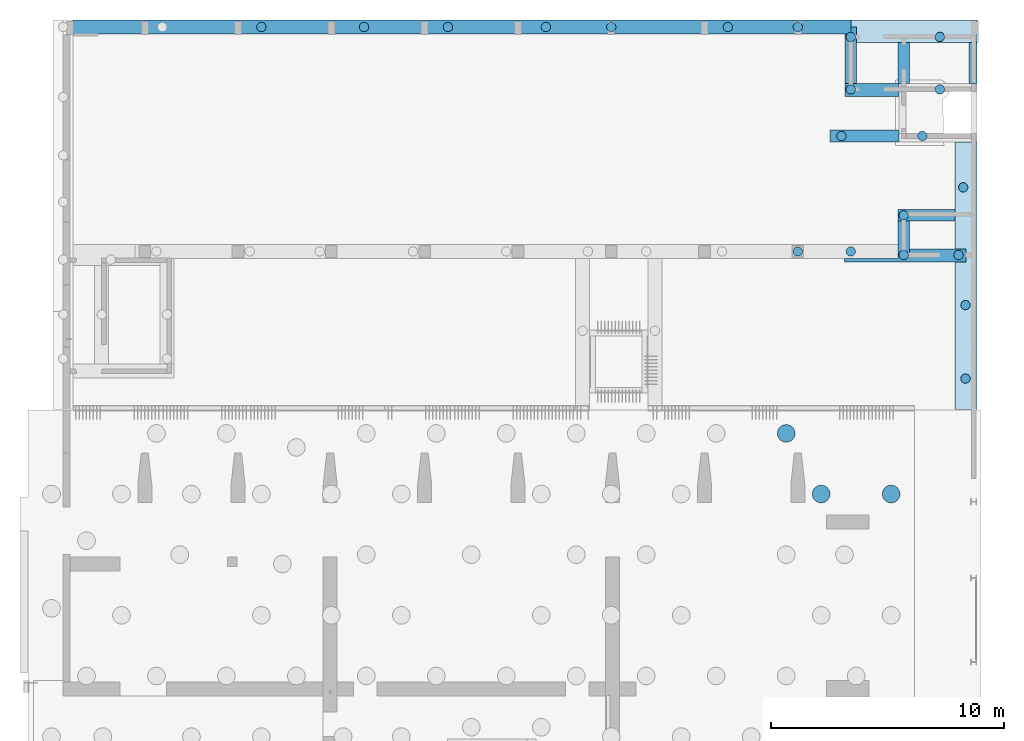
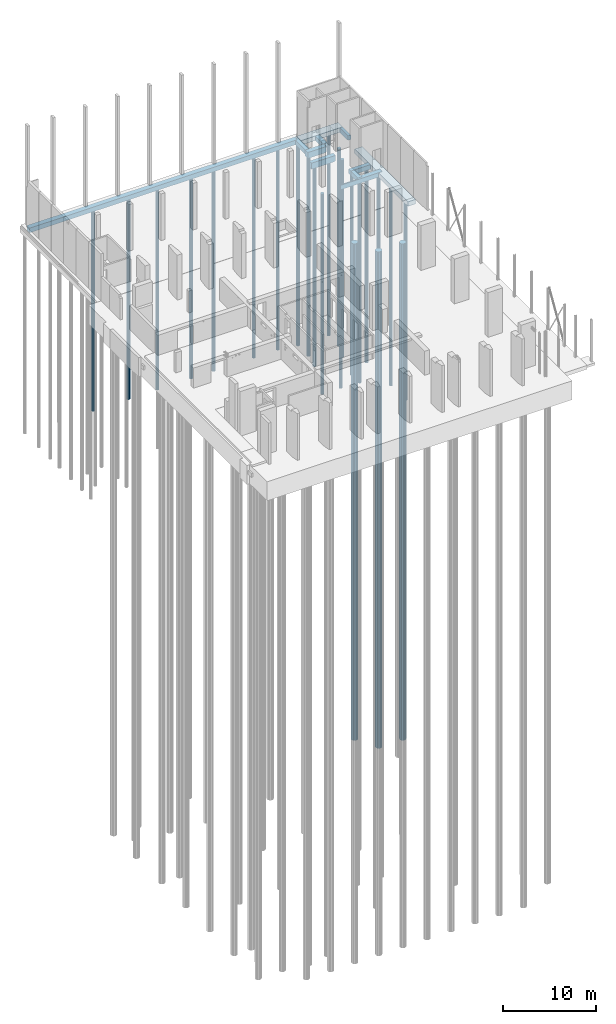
# One storey, part 8 of 26: 24 piles, 11 footings.
"""IFC2X3 building model written with IfcOpenShell, lengths in millimetres."""

from ifc_helpers import new_model, entity, si_unit, converted_unit, derived_unit, direction, frame, frame_2d, origin, origin_2d_with_axis, place, context, subcontext, project, spatial, polyline, rectangle, outline, extrude, material, element, save


model = new_model("IFC2X3")

# Units and contexts
model_context = context("Model", 3, precision=0.01, world=origin(), true_north=direction((6.12303176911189e-17, 1.0)))
body_context = subcontext(model_context, "Body", "Model", "MODEL_VIEW")
ifc_project = project(units=[si_unit("LENGTHUNIT", "METRE", prefix="MILLI"), si_unit("AREAUNIT", "SQUARE_METRE"), si_unit("VOLUMEUNIT", "CUBIC_METRE"), converted_unit("PLANEANGLEUNIT", "DEGREE", entity("IfcRatioMeasure", 0.0174532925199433), si_unit("PLANEANGLEUNIT", "RADIAN"), dimensions=[0, 0, 0, 0, 0, 0, 0]), si_unit("MASSUNIT", "GRAM", prefix="KILO"), derived_unit("MASSDENSITYUNIT", [(si_unit("MASSUNIT", "GRAM", prefix="KILO"), 1), (si_unit("LENGTHUNIT", "METRE"), -3)]), si_unit("TIMEUNIT", "SECOND"), si_unit("FREQUENCYUNIT", "HERTZ"), si_unit("THERMODYNAMICTEMPERATUREUNIT", "DEGREE_CELSIUS"), derived_unit("THERMALTRANSMITTANCEUNIT", [(si_unit("MASSUNIT", "GRAM", prefix="KILO"), 1), (si_unit("THERMODYNAMICTEMPERATUREUNIT", "KELVIN"), -1), (si_unit("TIMEUNIT", "SECOND"), -3)]), derived_unit("VOLUMETRICFLOWRATEUNIT", [(si_unit("LENGTHUNIT", "METRE"), 3), (si_unit("TIMEUNIT", "SECOND"), -1)]), si_unit("ELECTRICCURRENTUNIT", "AMPERE"), si_unit("ELECTRICVOLTAGEUNIT", "VOLT"), si_unit("POWERUNIT", "WATT"), si_unit("FORCEUNIT", "NEWTON", prefix="KILO"), si_unit("ILLUMINANCEUNIT", "LUX"), si_unit("LUMINOUSFLUXUNIT", "LUMEN"), si_unit("LUMINOUSINTENSITYUNIT", "CANDELA"), derived_unit("USERDEFINED", [(si_unit("MASSUNIT", "GRAM", prefix="KILO"), -1), (si_unit("LENGTHUNIT", "METRE"), -2), (si_unit("TIMEUNIT", "SECOND"), 3), (si_unit("LUMINOUSFLUXUNIT", "LUMEN"), 1)]), derived_unit("LINEARVELOCITYUNIT", [(si_unit("LENGTHUNIT", "METRE"), 1), (si_unit("TIMEUNIT", "SECOND"), -1)]), si_unit("PRESSUREUNIT", "PASCAL"), derived_unit("USERDEFINED", [(si_unit("LENGTHUNIT", "METRE"), -2), (si_unit("MASSUNIT", "GRAM", prefix="KILO"), 1), (si_unit("TIMEUNIT", "SECOND"), -2)])], contexts=[model_context])

# Site, building, storey
site_placement = place(None, origin())
site = spatial("IfcSite", under=ifc_project, at=site_placement, Name="Default", CompositionType="ELEMENT")
building_placement = place(site_placement, origin())
building = spatial("IfcBuilding", under=site, at=building_placement, Name="niet gebruiken", CompositionType="ELEMENT")
storey_placement = place(building_placement, origin())
storey = spatial("IfcBuildingStorey", under=building, at=storey_placement, Name="00 begane grond", CompositionType="ELEMENT", Elevation=0.0)

# Footings
ifc_material = material(Name="NLRS_f2_beton ihwg")
footing_1_placement = place(storey_placement, origin())
element("IfcFooting", 1, at=footing_1_placement, inside=storey, material=ifc_material, Name="NLRS_16.12_SF_WPB_funderingsbalk ihwg recht_gen:600x600", ObjectType="NLRS_16.12_SF_WPB_funderingsbalk ihwg recht_gen:600x600", PredefinedType="FOOTING_BEAM", context=body_context, shape_type="SweptSolid", body=[
    extrude(rectangle(XDim=33345.0, YDim=599.999999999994, at=frame_2d((-5515.83333333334, 50.0000000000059), x_axis=(1.0, 0.0))), frame((146863.333333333, 53075.0, -1200.0)), (0.0, 0.0, 1.0), 599.999999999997),
])
footing_2_placement = place(storey_placement, origin())
element("IfcFooting", 2, at=footing_2_placement, inside=storey, material=ifc_material, Name="NLRS_16.12_SF_WPB_funderingsbalk ihwg recht_gen:500x600", ObjectType="NLRS_16.12_SF_WPB_funderingsbalk ihwg recht_gen:500x600", PredefinedType="FOOTING_BEAM", context=body_context, shape_type="SweptSolid", body=[
    extrude(rectangle(XDim=1500.0, YDim=500.000000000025, at=frame_2d((-116.666666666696, 0.0), x_axis=(1.0, 0.0))), frame((160290.0, 43933.3333333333, -1200.0), z_axis=(0.0, 0.0, 1.0), x_axis=(0.0, -1.0, 0.0)), (0.0, 0.0, 1.0), 599.999999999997),
])
footing_3_placement = place(storey_placement, origin())
element("IfcFooting", 3, at=footing_3_placement, inside=storey, material=ifc_material, Name="NLRS_16.12_SF_WPB_funderingsbalk ihwg recht_gen:550x600", ObjectType="NLRS_16.12_SF_WPB_funderingsbalk ihwg recht_gen:550x600", PredefinedType="FOOTING_BEAM", context=body_context, shape_type="SweptSolid", body=[
    extrude(outline(polyline([(-2208.0, -305.0), (-1733.0, -305.0), (217.0, -305.0), (217.0, -5.0), (717.0, -5.0), (717.0, 95.0), (3007.0, 95.0), (3007.0, 245.0), (-1733.0, 245.0), (-2208.0, 245.0), (-2208.0, -305.0)])), frame((160757.0, 43295.0, -1200.0), z_axis=(0.0, 0.0, 1.0), x_axis=(-1.0, 0.0, 0.0)), (0.0, 0.0, 1.0), 599.999999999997),
])
footing_4_placement = place(storey_placement, origin())
element("IfcFooting", 4, at=footing_4_placement, inside=storey, material=ifc_material, Name="NLRS_16.12_SF_WPB_funderingsbalk ihwg recht_gen:350x600", ObjectType="NLRS_16.12_SF_WPB_funderingsbalk ihwg recht_gen:350x600", PredefinedType="FOOTING_BEAM", context=body_context, shape_type="SweptSolid", body=[
    extrude(rectangle(XDim=1749.9999999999, YDim=349.99999999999, at=frame_2d((0.0, 1.73372427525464e-11), x_axis=(1.0, 0.0))), frame((163265.0, 51575.0, -1200.0), z_axis=(0.0, 0.0, 1.0), x_axis=(0.0, -1.0, 0.0)), (0.0, 0.0, 1.0), 599.999999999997),
])
footing_5_placement = place(storey_placement, origin())
element("IfcFooting", 5, at=footing_5_placement, inside=storey, material=ifc_material, Name="NLRS_16.12_SF_WPB_funderingsbalk ihwg recht_gen:500x600", ObjectType="NLRS_16.12_SF_WPB_funderingsbalk ihwg recht_gen:500x600", PredefinedType="FOOTING_BEAM", context=body_context, shape_type="SweptSolid", body=[
    extrude(rectangle(XDim=2450.00000000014, YDim=499.999999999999, at=frame_2d((-144.999999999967, -49.9999999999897), x_axis=(1.0, 0.0))), frame((161120.0, 45000.0, -1200.0), z_axis=(0.0, 0.0, 1.0), x_axis=(-1.0, 0.0, 0.0)), (0.0, 0.0, 1.0), 599.999999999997),
])
footing_6_placement = place(storey_placement, origin())
element("IfcFooting", 6, at=footing_6_placement, inside=storey, material=ifc_material, Name="NLRS_16.12_SF_WPB_funderingsbalk ihwg recht_gen:975x600", ObjectType="NLRS_16.12_SF_WPB_funderingsbalk ihwg recht_gen:975x600", PredefinedType="FOOTING_BEAM", context=body_context, shape_type="SweptSolid", body=[
    extrude(outline(polyline([(-3092.22222222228, -608.333333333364), (2327.77777777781, -608.333333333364), (2327.7777777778, -308.333333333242), (2077.77777777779, -308.333333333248), (2077.77777777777, 366.666666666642), (307.777777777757, 366.666666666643), (-192.222222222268, 366.666666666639), (-2742.22222222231, 366.666666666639), (-3092.2222222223, 366.66666666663), (-3092.22222222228, -608.333333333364)])), frame((160347.777777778, 52816.6666666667, -1200.0), z_axis=(0.0, 0.0, 1.0), x_axis=(-1.0, 0.0, 0.0)), (0.0, 0.0, 1.0), 599.999999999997),
])
footing_7_placement = place(storey_placement, origin())
element("IfcFooting", 7, at=footing_7_placement, inside=storey, material=ifc_material, Name="NLRS_16.12_SF_WPB_funderingsbalk ihwg recht_gen:550x750", ObjectType="NLRS_16.12_SF_WPB_funderingsbalk ihwg recht_gen:550x750", PredefinedType="FOOTING_BEAM", context=body_context, shape_type="SweptSolid", body=[
    extrude(outline(polyline([(-1496.66666666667, -516.666666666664), (823.333333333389, -516.666666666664), (823.333333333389, 233.333333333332), (673.333333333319, 233.333333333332), (673.333333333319, 283.333333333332), (-1496.66666666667, 283.333333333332), (-1496.66666666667, -516.666666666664)])), frame((159266.666666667, 50150.0, -1116.66666666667), z_axis=(0.0, 1.0, 0.0), x_axis=(1.0, 0.0, 0.0)), (0.0, 0.0, 1.0), 549.999999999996),
])
footing_8_placement = place(storey_placement, origin())
element("IfcFooting", 8, at=footing_8_placement, inside=storey, material=ifc_material, Name="NLRS_16.12_SF_WPB_funderingsbalk ihwg recht_gen:500x600", ObjectType="NLRS_16.12_SF_WPB_funderingsbalk ihwg recht_gen:500x600", PredefinedType="FOOTING_BEAM", context=body_context, shape_type="SweptSolid", body=[
    extrude(outline(polyline([(-1550.0, -214.285714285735), (200.0, -214.285714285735), (875.0, -214.285714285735), (875.0, 35.7142857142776), (575.0, 35.7142857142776), (575.0, 285.71428571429), (-1550.0, 285.71428571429), (-1550.0, -214.285714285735)])), frame((158055.714285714, 52250.0, -1200.0), z_axis=(0.0, 0.0, 1.0), x_axis=(0.0, 1.0, 0.0)), (0.0, 0.0, 1.0), 599.999999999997),
])
footing_9_placement = place(storey_placement, origin())
element("IfcFooting", 9, at=footing_9_placement, inside=storey, material=ifc_material, Name="NLRS_16.12_SF_WPB_funderingsbalk ihwg recht_gen:500x600", ObjectType="NLRS_16.12_SF_WPB_funderingsbalk ihwg recht_gen:500x600", PredefinedType="FOOTING_BEAM", context=body_context, shape_type="SweptSolid", body=[
    extrude(rectangle(XDim=1750.00000000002, YDim=499.99999999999, at=origin_2d_with_axis()), frame((160290.0, 51575.0, -1200.0), z_axis=(0.0, 0.0, 1.0), x_axis=(0.0, 1.0, 0.0)), (0.0, 0.0, 1.0), 599.999999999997),
])

# Piles
pile_1_placement = place(storey_placement, origin())
element("IfcPile", 10, at=pile_1_placement, inside=storey, material=ifc_material, Name="NLRS_17.12_SFO_TLB_funderingspaal grondverdringend_gen:Tubex_r762/950", ObjectType="NLRS_17.12_SFO_TLB_funderingspaal grondverdringend_gen:Tubex_r762/950", context=body_context, shape_type="SweptSolid", body=[
    extrude(outline(polyline([(-33.2063379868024, -379.550179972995), (33.2063379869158, -379.550179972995), (161.017557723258, -345.303266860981), (269.407683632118, -269.407683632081), (345.303266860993, -161.017557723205), (379.550179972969, -33.2063379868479), (368.017739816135, 98.6100561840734), (312.096928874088, 218.532622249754), (218.532622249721, 312.096928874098), (98.6100561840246, 368.017739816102), (33.2063379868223, 379.550179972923), (-33.2063379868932, 379.550179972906), (-161.017557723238, 345.30326686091), (-269.407683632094, 269.40768363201), (-345.303266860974, 161.017557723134), (-379.550179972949, 33.2063379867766), (-368.017739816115, -98.6100561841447), (-312.096928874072, -218.532622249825), (-218.532622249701, -312.096928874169), (-98.6100561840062, -368.01773981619), (-33.2063379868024, -379.550179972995)])), frame((155250.0, 35700.0, -68100.0), z_axis=(0.0, 0.0, 1.0), x_axis=(0.087155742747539, -0.996194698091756, 0.0)), (0.0, 0.0, 1.0), 65380.0),
])
pile_2_placement = place(storey_placement, origin())
element("IfcPile", 11, at=pile_2_placement, inside=storey, material=ifc_material, Name="NLRS_17.12_SFO_TLB_funderingspaal grondverdringend_gen:Tubex_r762/950", ObjectType="NLRS_17.12_SFO_TLB_funderingspaal grondverdringend_gen:Tubex_r762/950", context=body_context, shape_type="SweptSolid", body=[
    extrude(outline(polyline([(-33.2063379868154, -379.550179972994), (33.2063379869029, -379.550179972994), (161.017557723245, -345.30326686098), (269.407683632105, -269.40768363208), (345.303266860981, -161.017557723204), (379.550179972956, -33.2063379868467), (368.017739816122, 98.6100561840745), (312.096928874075, 218.532622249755), (218.532622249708, 312.096928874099), (98.6100561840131, 368.01773981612), (33.2063379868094, 379.550179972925), (-33.2063379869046, 379.550179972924), (-161.017557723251, 345.303266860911), (-269.407683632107, 269.407683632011), (-345.303266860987, 161.017557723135), (-379.550179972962, 33.2063379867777), (-368.017739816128, -98.6100561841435), (-312.096928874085, -218.532622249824), (-218.532622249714, -312.096928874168), (-98.6100561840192, -368.017739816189), (-33.2063379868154, -379.550179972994)])), frame((159750.0, 33100.0, -68100.0), z_axis=(0.0, 0.0, 1.0), x_axis=(0.087155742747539, -0.996194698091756, 0.0)), (0.0, 0.0, 1.0), 65380.0),
])
pile_3_placement = place(storey_placement, origin())
element("IfcPile", 12, at=pile_3_placement, inside=storey, material=ifc_material, Name="NLRS_17.12_SFO_TLB_funderingspaal grondverdringend_gen:Tubex_r762/950", ObjectType="NLRS_17.12_SFO_TLB_funderingspaal grondverdringend_gen:Tubex_r762/950", context=body_context, shape_type="SweptSolid", body=[
    extrude(outline(polyline([(-33.2063379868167, -379.550179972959), (33.2063379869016, -379.550179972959), (161.017557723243, -345.303266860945), (269.407683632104, -269.407683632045), (345.303266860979, -161.017557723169), (379.550179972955, -33.2063379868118), (368.01773981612, 98.6100561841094), (312.096928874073, 218.53262224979), (218.532622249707, 312.096928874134), (98.6100561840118, 368.017739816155), (33.2063379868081, 379.550179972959), (-33.2063379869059, 379.550179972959), (-161.017557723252, 345.303266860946), (-269.407683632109, 269.407683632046), (-345.303266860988, 161.01755772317), (-379.550179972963, 33.2063379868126), (-368.017739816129, -98.6100561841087), (-312.096928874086, -218.532622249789), (-218.532622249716, -312.096928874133), (-98.6100561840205, -368.017739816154), (-33.2063379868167, -379.550179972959)])), frame((156750.0, 33100.0, -68100.0), z_axis=(0.0, 0.0, 1.0), x_axis=(0.087155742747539, -0.996194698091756, 0.0)), (0.0, 0.0, 1.0), 65380.0),
])
pile_4_placement = place(storey_placement, origin())
element("IfcPile", 13, at=pile_4_placement, inside=storey, material=ifc_material, Name="NLRS_17.12_SFO_TLB_funderingspaal grondverdringend_gen:Fundex_r410/500", ObjectType="NLRS_17.12_SFO_TLB_funderingspaal grondverdringend_gen:Fundex_r410/500", context=body_context, shape_type="SweptSolid", body=[
    extrude(outline(polyline([(-49.0597111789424, -199.043072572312), (49.0597111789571, -199.043072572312), (135.940144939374, -153.444703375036), (191.678329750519, -72.6940018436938), (203.505319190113, 24.7100194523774), (168.711692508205, 116.453273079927), (95.2682502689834, 181.518485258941), (49.059711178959, 199.04307257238), (-49.0597111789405, 199.04307257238), (-135.940144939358, 153.444703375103), (-191.678329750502, 72.6940018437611), (-203.505319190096, -24.7100194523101), (-168.711692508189, -116.45327307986), (-95.2682502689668, -181.518485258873), (-49.0597111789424, -199.043072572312)])), frame((155750.0, 53125.0, -27600.0), z_axis=(0.0, 0.0, 1.0), x_axis=(0.239315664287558, -0.970941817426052, 0.0)), (0.0, 0.0, 1.0), 26420.0),
])
pile_5_placement = place(storey_placement, origin())
element("IfcPile", 14, at=pile_5_placement, inside=storey, material=ifc_material, Name="NLRS_17.12_SFO_TLB_funderingspaal grondverdringend_gen:Fundex_r410/500", ObjectType="NLRS_17.12_SFO_TLB_funderingspaal grondverdringend_gen:Fundex_r410/500", context=body_context, shape_type="SweptSolid", body=[
    extrude(outline(polyline([(-49.0597111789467, -199.043072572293), (49.0597111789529, -199.043072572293), (135.94014493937, -153.444703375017), (191.678329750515, -72.6940018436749), (203.505319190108, 24.7100194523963), (168.711692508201, 116.453273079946), (95.2682502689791, 181.51848525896), (49.0597111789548, 199.043072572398), (-49.0597111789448, 199.043072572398), (-135.940144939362, 153.444703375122), (-191.678329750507, 72.69400184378), (-203.5053191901, -24.7100194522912), (-168.711692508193, -116.453273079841), (-95.2682502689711, -181.518485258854), (-49.0597111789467, -199.043072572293)])), frame((152750.0, 53125.0, -27600.0), z_axis=(0.0, 0.0, 1.0), x_axis=(0.239315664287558, -0.970941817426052, 0.0)), (0.0, 0.0, 1.0), 26420.0),
])
pile_6_placement = place(storey_placement, origin())
element("IfcPile", 15, at=pile_6_placement, inside=storey, material=ifc_material, Name="NLRS_17.12_SFO_TLB_funderingspaal grondverdringend_gen:Fundex_r410/500", ObjectType="NLRS_17.12_SFO_TLB_funderingspaal grondverdringend_gen:Fundex_r410/500", context=body_context, shape_type="SweptSolid", body=[
    extrude(outline(polyline([(-49.0597111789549, -199.043072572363), (49.0597111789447, -199.043072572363), (135.940144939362, -153.444703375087), (191.678329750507, -72.6940018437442), (203.5053191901, 24.7100194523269), (168.711692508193, 116.453273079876), (95.2682502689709, 181.51848525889), (49.0597111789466, 199.043072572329), (-49.059711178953, 199.043072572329), (-135.94014493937, 153.444703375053), (-191.678329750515, 72.6940018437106), (-203.505319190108, -24.7100194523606), (-168.711692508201, -116.45327307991), (-95.2682502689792, -181.518485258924), (-49.0597111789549, -199.043072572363)])), frame((147750.0, 53125.0, -27600.0), z_axis=(0.0, 0.0, 1.0), x_axis=(0.239315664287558, -0.970941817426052, 0.0)), (0.0, 0.0, 1.0), 26420.0),
])
pile_7_placement = place(storey_placement, origin())
element("IfcPile", 16, at=pile_7_placement, inside=storey, material=ifc_material, Name="NLRS_17.12_SFO_TLB_funderingspaal grondverdringend_gen:Fundex_r410/500", ObjectType="NLRS_17.12_SFO_TLB_funderingspaal grondverdringend_gen:Fundex_r410/500", context=body_context, shape_type="SweptSolid", body=[
    extrude(outline(polyline([(-49.0597111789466, -199.043072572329), (49.059711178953, -199.043072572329), (135.94014493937, -153.444703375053), (191.678329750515, -72.6940018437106), (203.505319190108, 24.7100194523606), (168.711692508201, 116.45327307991), (95.2682502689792, 181.518485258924), (49.0597111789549, 199.043072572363), (-49.0597111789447, 199.043072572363), (-135.940144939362, 153.444703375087), (-191.678329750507, 72.6940018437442), (-203.5053191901, -24.7100194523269), (-168.711692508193, -116.453273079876), (-95.2682502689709, -181.51848525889), (-49.0597111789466, -199.043072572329)])), frame((144950.0, 53125.0, -27600.0), z_axis=(0.0, 0.0, 1.0), x_axis=(0.239315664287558, -0.970941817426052, 0.0)), (0.0, 0.0, 1.0), 26420.0),
])
pile_8_placement = place(storey_placement, origin())
element("IfcPile", 17, at=pile_8_placement, inside=storey, material=ifc_material, Name="NLRS_17.12_SFO_TLB_funderingspaal grondverdringend_gen:Fundex_r410/500", ObjectType="NLRS_17.12_SFO_TLB_funderingspaal grondverdringend_gen:Fundex_r410/500", context=body_context, shape_type="SweptSolid", body=[
    extrude(outline(polyline([(-49.0597111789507, -199.043072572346), (49.0597111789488, -199.043072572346), (135.940144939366, -153.44470337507), (191.678329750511, -72.6940018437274), (203.505319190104, 24.7100194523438), (168.711692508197, 116.453273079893), (95.2682502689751, 181.518485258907), (49.0597111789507, 199.043072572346), (-49.0597111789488, 199.043072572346), (-135.940144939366, 153.44470337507), (-191.678329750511, 72.6940018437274), (-203.505319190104, -24.7100194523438), (-168.711692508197, -116.453273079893), (-95.2682502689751, -181.518485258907), (-49.0597111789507, -199.043072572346)])), frame((140750.0, 53125.0, -27600.0), z_axis=(0.0, 0.0, 1.0), x_axis=(0.239315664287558, -0.970941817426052, 0.0)), (0.0, 0.0, 1.0), 26420.0),
])
pile_9_placement = place(storey_placement, origin())
element("IfcPile", 18, at=pile_9_placement, inside=storey, material=ifc_material, Name="NLRS_17.12_SFO_TLB_funderingspaal grondverdringend_gen:Fundex_r410/500", ObjectType="NLRS_17.12_SFO_TLB_funderingspaal grondverdringend_gen:Fundex_r410/500", context=body_context, shape_type="SweptSolid", body=[
    extrude(outline(polyline([(-49.059711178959, -199.04307257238), (49.0597111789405, -199.04307257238), (135.940144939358, -153.444703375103), (191.678329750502, -72.6940018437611), (203.505319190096, 24.7100194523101), (168.711692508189, 116.45327307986), (95.2682502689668, 181.518485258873), (49.0597111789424, 199.043072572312), (-49.0597111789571, 199.043072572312), (-135.940144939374, 153.444703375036), (-191.678329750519, 72.6940018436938), (-203.505319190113, -24.7100194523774), (-168.711692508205, -116.453273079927), (-95.2682502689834, -181.518485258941), (-49.059711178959, -199.04307257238)])), frame((137150.0, 53125.0, -27600.0), z_axis=(0.0, 0.0, 1.0), x_axis=(0.239315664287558, -0.970941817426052, 0.0)), (0.0, 0.0, 1.0), 26420.0),
])
pile_10_placement = place(storey_placement, origin())
element("IfcPile", 19, at=pile_10_placement, inside=storey, material=ifc_material, Name="NLRS_17.12_SFO_TLB_funderingspaal grondverdringend_gen:Fundex_r410/500", ObjectType="NLRS_17.12_SFO_TLB_funderingspaal grondverdringend_gen:Fundex_r410/500", context=body_context, shape_type="SweptSolid", body=[
    extrude(outline(polyline([(-49.059711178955, -199.043072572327), (49.0597111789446, -199.043072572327), (135.940144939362, -153.444703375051), (191.678329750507, -72.6940018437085), (203.5053191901, 24.7100194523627), (168.711692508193, 116.453273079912), (95.2682502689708, 181.518485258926), (49.0597111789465, 199.043072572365), (-49.0597111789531, 199.043072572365), (-135.94014493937, 153.444703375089), (-191.678329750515, 72.6940018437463), (-203.505319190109, -24.7100194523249), (-168.711692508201, -116.453273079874), (-95.2682502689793, -181.518485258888), (-49.059711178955, -199.043072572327)])), frame((132750.0, 53125.0, -27600.0), z_axis=(0.0, 0.0, 1.0), x_axis=(0.239315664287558, -0.970941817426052, 0.0)), (0.0, 0.0, 1.0), 26420.0),
])
pile_11_placement = place(storey_placement, origin())
element("IfcPile", 20, at=pile_11_placement, inside=storey, material=ifc_material, Name="NLRS_17.12_SFO_TLB_funderingspaal grondverdringend_gen:Fundex_r410/500", ObjectType="NLRS_17.12_SFO_TLB_funderingspaal grondverdringend_gen:Fundex_r410/500", context=body_context, shape_type="SweptSolid", body=[
    extrude(outline(polyline([(-49.0597111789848, -199.043072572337), (49.0597111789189, -199.043072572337), (135.940144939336, -153.44470337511), (191.678329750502, -72.6940018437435), (203.505319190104, 24.710019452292), (168.711692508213, 116.453273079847), (95.2682502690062, 181.518485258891), (49.0597111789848, 199.043072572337), (-49.0597111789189, 199.043072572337), (-135.940144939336, 153.44470337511), (-191.678329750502, 72.6940018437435), (-203.505319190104, -24.710019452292), (-168.711692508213, -116.453273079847), (-95.2682502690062, -181.518485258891), (-49.0597111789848, -199.043072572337)])), frame((158020.0, 52700.0, -27600.0), z_axis=(0.0, 0.0, 1.0), x_axis=(0.239315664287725, -0.970941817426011, 0.0)), (0.0, 0.0, 1.0), 26420.0),
])
pile_12_placement = place(storey_placement, origin())
element("IfcPile", 21, at=pile_12_placement, inside=storey, material=ifc_material, Name="NLRS_17.12_SFO_TLB_funderingspaal grondverdringend_gen:Fundex_r410/500", ObjectType="NLRS_17.12_SFO_TLB_funderingspaal grondverdringend_gen:Fundex_r410/500", context=body_context, shape_type="SweptSolid", body=[
    extrude(outline(polyline([(-49.059711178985, -199.043072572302), (49.0597111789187, -199.043072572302), (135.940144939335, -153.444703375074), (191.678329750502, -72.6940018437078), (203.505319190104, 24.7100194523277), (168.711692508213, 116.453273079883), (95.2682502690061, 181.518485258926), (49.0597111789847, 199.043072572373), (-49.059711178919, 199.043072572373), (-135.940144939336, 153.444703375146), (-191.678329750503, 72.6940018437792), (-203.505319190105, -24.7100194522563), (-168.711692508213, -116.453273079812), (-95.2682502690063, -181.518485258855), (-49.059711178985, -199.043072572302)])), frame((161840.0, 52700.0, -27600.0), z_axis=(0.0, 0.0, 1.0), x_axis=(0.239315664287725, -0.970941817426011, 0.0)), (0.0, 0.0, 1.0), 26420.0),
])
pile_13_placement = place(storey_placement, origin())
element("IfcPile", 22, at=pile_13_placement, inside=storey, material=ifc_material, Name="NLRS_17.12_SFO_TLB_funderingspaal grondverdringend_gen:Fundex_r410/500", ObjectType="NLRS_17.12_SFO_TLB_funderingspaal grondverdringend_gen:Fundex_r410/500", context=body_context, shape_type="SweptSolid", body=[
    extrude(outline(polyline([(-49.0597111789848, -199.043072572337), (49.0597111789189, -199.043072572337), (135.940144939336, -153.44470337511), (191.678329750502, -72.6940018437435), (203.505319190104, 24.710019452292), (168.711692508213, 116.453273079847), (95.2682502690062, 181.518485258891), (49.0597111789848, 199.043072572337), (-49.0597111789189, 199.043072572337), (-135.940144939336, 153.44470337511), (-191.678329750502, 72.6940018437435), (-203.505319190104, -24.710019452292), (-168.711692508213, -116.453273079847), (-95.2682502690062, -181.518485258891), (-49.0597111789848, -199.043072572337)])), frame((158020.0, 50450.0, -27600.0), z_axis=(0.0, 0.0, 1.0), x_axis=(0.239315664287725, -0.970941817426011, 0.0)), (0.0, 0.0, 1.0), 26220.0),
])
pile_14_placement = place(storey_placement, origin())
element("IfcPile", 23, at=pile_14_placement, inside=storey, material=ifc_material, Name="NLRS_17.12_SFO_TLB_funderingspaal grondverdringend_gen:Fundex_r410/500", ObjectType="NLRS_17.12_SFO_TLB_funderingspaal grondverdringend_gen:Fundex_r410/500", context=body_context, shape_type="SweptSolid", body=[
    extrude(outline(polyline([(-49.0597111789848, -199.043072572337), (49.0597111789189, -199.043072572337), (135.940144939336, -153.44470337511), (191.678329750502, -72.6940018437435), (203.505319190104, 24.710019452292), (168.711692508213, 116.453273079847), (95.2682502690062, 181.518485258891), (49.0597111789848, 199.043072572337), (-49.0597111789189, 199.043072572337), (-135.940144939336, 153.44470337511), (-191.678329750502, 72.6940018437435), (-203.505319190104, -24.710019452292), (-168.711692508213, -116.453273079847), (-95.2682502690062, -181.518485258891), (-49.0597111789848, -199.043072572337)])), frame((161840.0, 50450.0, -27600.0), z_axis=(0.0, 0.0, 1.0), x_axis=(0.239315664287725, -0.970941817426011, 0.0)), (0.0, 0.0, 1.0), 26020.0),
])
pile_15_placement = place(storey_placement, origin())
element("IfcPile", 24, at=pile_15_placement, inside=storey, material=ifc_material, Name="NLRS_17.12_SFO_TLB_funderingspaal grondverdringend_gen:Fundex_r410/500", ObjectType="NLRS_17.12_SFO_TLB_funderingspaal grondverdringend_gen:Fundex_r410/500", context=body_context, shape_type="SweptSolid", body=[
    extrude(outline(polyline([(-49.0597111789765, -199.043072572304), (49.0597111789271, -199.043072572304), (135.940144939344, -153.444703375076), (191.678329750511, -72.6940018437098), (203.505319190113, 24.7100194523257), (168.711692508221, 116.453273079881), (95.2682502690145, 181.518485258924), (49.0597111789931, 199.043072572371), (-49.0597111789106, 199.043072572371), (-135.940144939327, 153.444703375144), (-191.678329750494, 72.6940018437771), (-203.505319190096, -24.7100194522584), (-168.711692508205, -116.453273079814), (-95.2682502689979, -181.518485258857), (-49.0597111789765, -199.043072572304)])), frame((161090.0, 48450.0, -27600.0), z_axis=(0.0, 0.0, 1.0), x_axis=(0.239315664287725, -0.970941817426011, 0.0)), (0.0, 0.0, 1.0), 26020.0),
])
pile_16_placement = place(storey_placement, origin())
element("IfcPile", 25, at=pile_16_placement, inside=storey, material=ifc_material, Name="NLRS_17.12_SFO_TLB_funderingspaal grondverdringend_gen:Fundex_r410/500", ObjectType="NLRS_17.12_SFO_TLB_funderingspaal grondverdringend_gen:Fundex_r410/500", context=body_context, shape_type="SweptSolid", body=[
    extrude(outline(polyline([(-49.0597111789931, -199.043072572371), (49.0597111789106, -199.043072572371), (135.940144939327, -153.444703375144), (191.678329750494, -72.6940018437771), (203.505319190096, 24.7100194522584), (168.711692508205, 116.453273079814), (95.2682502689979, 181.518485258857), (49.0597111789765, 199.043072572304), (-49.0597111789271, 199.043072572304), (-135.940144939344, 153.444703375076), (-191.678329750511, 72.6940018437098), (-203.505319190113, -24.7100194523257), (-168.711692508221, -116.453273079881), (-95.2682502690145, -181.518485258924), (-49.0597111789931, -199.043072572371)])), frame((157620.0, 48450.0, -27600.0), z_axis=(0.0, 0.0, 1.0), x_axis=(0.239315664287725, -0.970941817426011, 0.0)), (0.0, 0.0, 1.0), 26220.0),
])
pile_17_placement = place(storey_placement, origin())
element("IfcPile", 26, at=pile_17_placement, inside=storey, material=ifc_material, Name="NLRS_17.12_SFO_TLB_funderingspaal grondverdringend_gen:Fundex_r410/500", ObjectType="NLRS_17.12_SFO_TLB_funderingspaal grondverdringend_gen:Fundex_r410/500", context=body_context, shape_type="SweptSolid", body=[
    extrude(outline(polyline([(-49.0597111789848, -199.043072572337), (49.0597111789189, -199.043072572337), (135.940144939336, -153.44470337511), (191.678329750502, -72.6940018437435), (203.505319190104, 24.710019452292), (168.711692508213, 116.453273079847), (95.2682502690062, 181.518485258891), (49.0597111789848, 199.043072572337), (-49.0597111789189, 199.043072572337), (-135.940144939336, 153.44470337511), (-191.678329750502, 72.6940018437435), (-203.505319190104, -24.710019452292), (-168.711692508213, -116.453273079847), (-95.2682502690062, -181.518485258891), (-49.0597111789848, -199.043072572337)])), frame((160290.0, 45050.0, -27600.0), z_axis=(0.0, 0.0, 1.0), x_axis=(0.239315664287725, -0.970941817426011, 0.0)), (0.0, 0.0, 1.0), 26420.0),
])
pile_18_placement = place(storey_placement, origin())
element("IfcPile", 27, at=pile_18_placement, inside=storey, material=ifc_material, Name="NLRS_17.12_SFO_TLB_funderingspaal grondverdringend_gen:Fundex_r410/500", ObjectType="NLRS_17.12_SFO_TLB_funderingspaal grondverdringend_gen:Fundex_r410/500", context=body_context, shape_type="SweptSolid", body=[
    extrude(outline(polyline([(-49.0597111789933, -199.043072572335), (49.0597111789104, -199.043072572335), (135.940144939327, -153.444703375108), (191.678329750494, -72.6940018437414), (203.505319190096, 24.7100194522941), (168.711692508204, 116.453273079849), (95.2682502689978, 181.518485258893), (49.0597111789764, 199.04307257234), (-49.0597111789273, 199.04307257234), (-135.940144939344, 153.444703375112), (-191.678329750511, 72.6940018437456), (-203.505319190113, -24.7100194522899), (-168.711692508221, -116.453273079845), (-95.2682502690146, -181.518485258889), (-49.0597111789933, -199.043072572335)])), frame((160290.0, 43350.0, -27600.0), z_axis=(0.0, 0.0, 1.0), x_axis=(0.239315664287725, -0.970941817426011, 0.0)), (0.0, 0.0, 1.0), 26420.0),
])
pile_19_placement = place(storey_placement, origin())
element("IfcPile", 28, at=pile_19_placement, inside=storey, material=ifc_material, Name="NLRS_17.12_SFO_TLB_funderingspaal grondverdringend_gen:Fundex_r410/500", ObjectType="NLRS_17.12_SFO_TLB_funderingspaal grondverdringend_gen:Fundex_r410/500", context=body_context, shape_type="SweptSolid", body=[
    extrude(outline(polyline([(-49.0597111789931, -199.043072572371), (49.0597111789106, -199.043072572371), (135.940144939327, -153.444703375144), (191.678329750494, -72.6940018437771), (203.505319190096, 24.7100194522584), (168.711692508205, 116.453273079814), (95.2682502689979, 181.518485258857), (49.0597111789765, 199.043072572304), (-49.0597111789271, 199.043072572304), (-135.940144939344, 153.444703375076), (-191.678329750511, 72.6940018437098), (-203.505319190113, -24.7100194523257), (-168.711692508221, -116.453273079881), (-95.2682502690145, -181.518485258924), (-49.0597111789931, -199.043072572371)])), frame((162840.0, 46250.0, -27600.0), z_axis=(0.0, 0.0, 1.0), x_axis=(0.239315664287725, -0.970941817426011, 0.0)), (0.0, 0.0, 1.0), 26420.0),
])
pile_20_placement = place(storey_placement, origin())
element("IfcPile", 29, at=pile_20_placement, inside=storey, material=ifc_material, Name="NLRS_17.12_SFO_TLB_funderingspaal grondverdringend_gen:Fundex_r410/500", ObjectType="NLRS_17.12_SFO_TLB_funderingspaal grondverdringend_gen:Fundex_r410/500", context=body_context, shape_type="SweptSolid", body=[
    extrude(outline(polyline([(-49.0597111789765, -199.043072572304), (49.0597111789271, -199.043072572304), (135.940144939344, -153.444703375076), (191.678329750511, -72.6940018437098), (203.505319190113, 24.7100194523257), (168.711692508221, 116.453273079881), (95.2682502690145, 181.518485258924), (49.0597111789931, 199.043072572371), (-49.0597111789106, 199.043072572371), (-135.940144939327, 153.444703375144), (-191.678329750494, 72.6940018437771), (-203.505319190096, -24.7100194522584), (-168.711692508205, -116.453273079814), (-95.2682502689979, -181.518485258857), (-49.0597111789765, -199.043072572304)])), frame((162940.0, 41200.0, -27600.0), z_axis=(0.0, 0.0, 1.0), x_axis=(0.239315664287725, -0.970941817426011, 0.0)), (0.0, 0.0, 1.0), 26420.0),
])
pile_21_placement = place(storey_placement, origin())
element("IfcPile", 30, at=pile_21_placement, inside=storey, material=ifc_material, Name="NLRS_17.12_SFO_TLB_funderingspaal grondverdringend_gen:Fundex_r410/500", ObjectType="NLRS_17.12_SFO_TLB_funderingspaal grondverdringend_gen:Fundex_r410/500", context=body_context, shape_type="SweptSolid", body=[
    extrude(outline(polyline([(-49.0597111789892, -199.043072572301), (49.0597111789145, -199.043072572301), (135.940144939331, -153.444703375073), (191.678329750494, -72.6940018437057), (203.505319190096, 24.7100194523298), (168.711692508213, 116.453273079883), (95.2682502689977, 181.518485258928), (49.0597111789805, 199.043072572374), (-49.0597111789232, 199.043072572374), (-135.94014493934, 153.444703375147), (-191.678329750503, 72.6940018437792), (-203.505319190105, -24.7100194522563), (-168.711692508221, -116.45327307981), (-95.2682502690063, -181.518485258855), (-49.0597111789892, -199.043072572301)])), frame((162940.0, 38050.0, -27600.0), z_axis=(0.0, 0.0, 1.0), x_axis=(0.239315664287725, -0.970941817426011, 0.0)), (0.0, 0.0, 1.0), 26420.0),
])
pile_22_placement = place(storey_placement, origin())
element("IfcPile", 31, at=pile_22_placement, inside=storey, material=ifc_material, Name="NLRS_17.12_SFO_TLB_funderingspaal grondverdringend_gen:Fundex_r410/500", ObjectType="NLRS_17.12_SFO_TLB_funderingspaal grondverdringend_gen:Fundex_r410/500", context=body_context, shape_type="SweptSolid", body=[
    extrude(outline(polyline([(-49.059711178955, -199.043072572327), (49.0597111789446, -199.043072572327), (135.940144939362, -153.444703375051), (191.678329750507, -72.6940018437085), (203.5053191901, 24.7100194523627), (168.711692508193, 116.453273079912), (95.2682502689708, 181.518485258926), (49.0597111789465, 199.043072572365), (-49.0597111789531, 199.043072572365), (-135.94014493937, 153.444703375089), (-191.678329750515, 72.6940018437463), (-203.505319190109, -24.7100194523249), (-168.711692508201, -116.453273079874), (-95.2682502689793, -181.518485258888), (-49.059711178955, -199.043072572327)])), frame((155750.0, 43500.0, -27600.0), z_axis=(0.0, 0.0, 1.0), x_axis=(0.239315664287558, -0.970941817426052, 0.0)), (0.0, 0.0, 1.0), 26420.0),
])
pile_23_placement = place(storey_placement, origin())
element("IfcPile", 32, at=pile_23_placement, inside=storey, material=ifc_material, Name="NLRS_17.12_SFO_TLB_funderingspaal grondverdringend_gen:Fundex_r410/500", ObjectType="NLRS_17.12_SFO_TLB_funderingspaal grondverdringend_gen:Fundex_r410/500", context=body_context, shape_type="SweptSolid", body=[
    extrude(outline(polyline([(-49.0597111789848, -199.043072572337), (49.0597111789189, -199.043072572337), (135.940144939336, -153.44470337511), (191.678329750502, -72.6940018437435), (203.505319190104, 24.710019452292), (168.711692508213, 116.453273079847), (95.2682502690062, 181.518485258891), (49.0597111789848, 199.043072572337), (-49.0597111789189, 199.043072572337), (-135.940144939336, 153.44470337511), (-191.678329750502, 72.6940018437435), (-203.505319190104, -24.710019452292), (-168.711692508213, -116.453273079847), (-95.2682502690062, -181.518485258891), (-49.0597111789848, -199.043072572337)])), frame((162640.0, 43350.0, -27600.0), z_axis=(0.0, 0.0, 1.0), x_axis=(0.239315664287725, -0.970941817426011, 0.0)), (0.0, 0.0, 1.0), 26420.0),
])

# Footings
footing_10_placement = place(storey_placement, origin())
element("IfcFooting", 33, at=footing_10_placement, inside=storey, material=ifc_material, Name="NLRS_16.12_SF_WPB_funderingsbalk ihwg recht_gen:500x750", ObjectType="NLRS_16.12_SF_WPB_funderingsbalk ihwg recht_gen:500x750", PredefinedType="FOOTING_BEAM", context=body_context, shape_type="SweptSolid", body=[
    extrude(outline(polyline([(-1930.0, -516.666666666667), (1040.0, -516.666666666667), (1040.0, 233.333333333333), (890.0, 233.333333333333), (890.0, 283.333333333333), (-1930.0, 283.333333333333), (-1930.0, -516.666666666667)])), frame((159050.0, 48200.0, -1116.66666666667), z_axis=(0.0, 1.0, 0.0), x_axis=(1.0, 0.0, 0.0)), (0.0, 0.0, 1.0), 499.999999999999),
])
footing_11_placement = place(storey_placement, origin())
element("IfcFooting", 34, at=footing_11_placement, inside=storey, material=ifc_material, Name="NLRS_16.12_SF_WPB_funderingsbalk ihwg recht_gen:950x600", ObjectType="NLRS_16.12_SF_WPB_funderingsbalk ihwg recht_gen:950x600", PredefinedType="FOOTING_BEAM", context=body_context, shape_type="SweptSolid", body=[
    extrude(outline(polyline([(-4876.0, -285.0), (-1976.0, -285.0), (-1476.0, -285.0), (-276.0, -285.0), (-276.0, 190.0), (274.0, 190.0), (274.0, -285.0), (6604.0, -285.0), (6604.0, 665.0), (-4876.0, 665.0), (-4876.0, -285.0)])), frame((162775.0, 43324.0, -1200.0), z_axis=(0.0, 0.0, 1.0), x_axis=(0.0, -1.0, 0.0)), (0.0, 0.0, 1.0), 599.999999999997),
])

# Pile
pile_24_placement = place(storey_placement, origin())
element("IfcPile", 35, at=pile_24_placement, inside=storey, material=ifc_material, Name="NLRS_17.12_SFO_TLB_funderingspaal grondverdringend_gen:Fundex_r410/500", ObjectType="NLRS_17.12_SFO_TLB_funderingspaal grondverdringend_gen:Fundex_r410/500", context=body_context, shape_type="SweptSolid", body=[
    extrude(outline(polyline([(-49.059711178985, -199.043072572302), (49.0597111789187, -199.043072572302), (135.940144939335, -153.444703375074), (191.678329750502, -72.6940018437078), (203.505319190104, 24.7100194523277), (168.711692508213, 116.453273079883), (95.2682502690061, 181.518485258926), (49.0597111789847, 199.043072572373), (-49.059711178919, 199.043072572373), (-135.940144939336, 153.444703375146), (-191.678329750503, 72.6940018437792), (-203.505319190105, -24.7100194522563), (-168.711692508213, -116.453273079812), (-95.2682502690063, -181.518485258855), (-49.059711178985, -199.043072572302)])), frame((158020.0, 43500.0, -27600.0), z_axis=(0.0, 0.0, 1.0), x_axis=(0.239315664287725, -0.970941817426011, 0.0)), (0.0, 0.0, 1.0), 26420.0),
])

save(model, "model.ifc")
